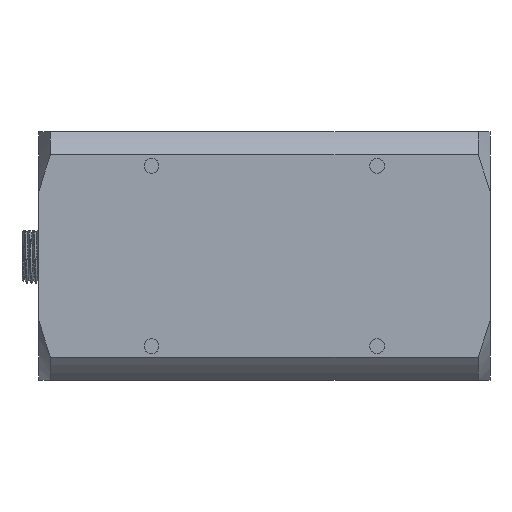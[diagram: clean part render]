
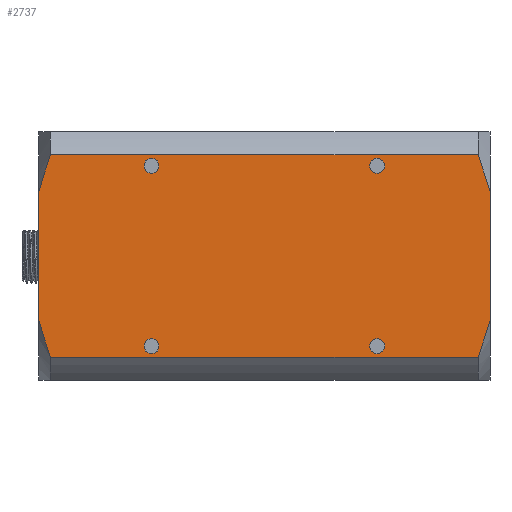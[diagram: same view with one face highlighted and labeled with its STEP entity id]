
A CAD part, front view. The second image highlights one B-rep face of the part: STEP entity #2737.
In plain terms, the highlighted planar face has unit normal (0, -1, 0).
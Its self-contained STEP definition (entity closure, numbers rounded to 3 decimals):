
#767=FACE_BOUND('',#5045,.T.);
#768=FACE_BOUND('',#5046,.T.);
#769=FACE_BOUND('',#5047,.T.);
#770=FACE_BOUND('',#5048,.T.);
#771=FACE_BOUND('',#5049,.T.);
#1096=B_SPLINE_CURVE_WITH_KNOTS('',3,(#28548,#28549,#28550,#28551),
 .UNSPECIFIED.,.F.,.F.,(4,4),(0.,1.),.UNSPECIFIED.);
#1106=B_SPLINE_CURVE_WITH_KNOTS('',3,(#28640,#28641,#28642,#28643),
 .UNSPECIFIED.,.F.,.F.,(4,4),(0.,1.),.UNSPECIFIED.);
#1108=B_SPLINE_CURVE_WITH_KNOTS('',3,(#28666,#28667,#28668,#28669),
 .UNSPECIFIED.,.F.,.F.,(4,4),(0.,1.),.UNSPECIFIED.);
#1111=B_SPLINE_CURVE_WITH_KNOTS('',3,(#28706,#28707,#28708,#28709),
 .UNSPECIFIED.,.F.,.F.,(4,4),(0.,1.),.UNSPECIFIED.);
#2061=PLANE('',#20547);
#2737=ADVANCED_FACE('',(#767,#768,#769,#770,#771),#2061,.T.);
#5045=EDGE_LOOP('',(#10599));
#5046=EDGE_LOOP('',(#10600));
#5047=EDGE_LOOP('',(#10601));
#5048=EDGE_LOOP('',(#10602));
#5049=EDGE_LOOP('',(#10603,#10604,#10605,#10606,#10607,#10608,#10609,#10610));
#6266=LINE('',#28647,#7894);
#6268=LINE('',#28664,#7896);
#6270=LINE('',#28679,#7898);
#6272=LINE('',#28687,#7900);
#7894=VECTOR('',#22516,1.);
#7896=VECTOR('',#22530,1.);
#7898=VECTOR('',#22538,1.);
#7900=VECTOR('',#22548,1.);
#10599=ORIENTED_EDGE('',*,*,#17437,.T.);
#10600=ORIENTED_EDGE('',*,*,#17438,.T.);
#10601=ORIENTED_EDGE('',*,*,#17439,.T.);
#10602=ORIENTED_EDGE('',*,*,#17440,.T.);
#10603=ORIENTED_EDGE('',*,*,#17433,.F.);
#10604=ORIENTED_EDGE('',*,*,#17441,.T.);
#10605=ORIENTED_EDGE('',*,*,#17416,.F.);
#10606=ORIENTED_EDGE('',*,*,#17414,.F.);
#10607=ORIENTED_EDGE('',*,*,#17423,.T.);
#10608=ORIENTED_EDGE('',*,*,#17424,.F.);
#10609=ORIENTED_EDGE('',*,*,#17428,.F.);
#10610=ORIENTED_EDGE('',*,*,#17386,.T.);
#15363=VERTEX_POINT('',#28552);
#15364=VERTEX_POINT('',#28553);
#15387=VERTEX_POINT('',#28639);
#15388=VERTEX_POINT('',#28644);
#15389=VERTEX_POINT('',#28648);
#15393=VERTEX_POINT('',#28663);
#15394=VERTEX_POINT('',#28670);
#15397=VERTEX_POINT('',#28686);
#15399=VERTEX_POINT('',#28699);
#15400=VERTEX_POINT('',#28701);
#15401=VERTEX_POINT('',#28703);
#15402=VERTEX_POINT('',#28705);
#17386=EDGE_CURVE('',#15363,#15364,#1096,.T.);
#17414=EDGE_CURVE('',#15387,#15388,#1106,.T.);
#17416=EDGE_CURVE('',#15388,#15389,#6266,.T.);
#17423=EDGE_CURVE('',#15387,#15393,#6268,.T.);
#17424=EDGE_CURVE('',#15394,#15393,#1108,.T.);
#17428=EDGE_CURVE('',#15363,#15394,#6270,.T.);
#17433=EDGE_CURVE('',#15397,#15364,#6272,.T.);
#17437=EDGE_CURVE('',#15399,#15399,#19830,.T.);
#17438=EDGE_CURVE('',#15400,#15400,#19831,.T.);
#17439=EDGE_CURVE('',#15401,#15401,#19832,.T.);
#17440=EDGE_CURVE('',#15402,#15402,#19833,.T.);
#17441=EDGE_CURVE('',#15397,#15389,#1111,.T.);
#19830=CIRCLE('',#20543,1.65);
#19831=CIRCLE('',#20544,1.65);
#19832=CIRCLE('',#20545,1.65);
#19833=CIRCLE('',#20546,1.65);
#20543=AXIS2_PLACEMENT_3D('',#28698,#22558,#22559);
#20544=AXIS2_PLACEMENT_3D('',#28700,#22560,#22561);
#20545=AXIS2_PLACEMENT_3D('',#28702,#22562,#22563);
#20546=AXIS2_PLACEMENT_3D('',#28704,#22564,#22565);
#20547=AXIS2_PLACEMENT_3D('',#28710,#22566,#22567);
#22516=DIRECTION('',(1.,0.,0.));
#22530=DIRECTION('',(0.,0.,-1.));
#22538=DIRECTION('',(-1.,0.,0.));
#22548=DIRECTION('',(0.,0.,-1.));
#22558=DIRECTION('',(0.,1.,0.));
#22559=DIRECTION('',(0.,0.,1.));
#22560=DIRECTION('',(0.,1.,0.));
#22561=DIRECTION('',(0.,0.,1.));
#22562=DIRECTION('',(0.,1.,0.));
#22563=DIRECTION('',(0.,0.,1.));
#22564=DIRECTION('',(0.,1.,0.));
#22565=DIRECTION('',(0.,0.,1.));
#22566=DIRECTION('',(0.,-1.,0.));
#22567=DIRECTION('',(0.,0.,1.));
#28548=CARTESIAN_POINT('',(92.402,-49.49,-241.95));
#28549=CARTESIAN_POINT('',(93.384,-49.49,-239.26));
#28550=CARTESIAN_POINT('',(94.269,-49.49,-236.551));
#28551=CARTESIAN_POINT('',(95.,-49.49,-233.809));
#28552=CARTESIAN_POINT('',(92.402,-49.49,-241.95));
#28553=CARTESIAN_POINT('',(95.,-49.49,-233.809));
#28639=CARTESIAN_POINT('',(-5.,-49.49,-205.191));
#28640=CARTESIAN_POINT('',(-5.,-49.49,-205.191));
#28641=CARTESIAN_POINT('',(-4.269,-49.49,-202.449));
#28642=CARTESIAN_POINT('',(-3.384,-49.49,-199.74));
#28643=CARTESIAN_POINT('',(-2.402,-49.49,-197.05));
#28644=CARTESIAN_POINT('',(-2.402,-49.49,-197.05));
#28647=CARTESIAN_POINT('',(-5.,-49.49,-197.05));
#28648=CARTESIAN_POINT('',(92.402,-49.49,-197.05));
#28663=CARTESIAN_POINT('',(-5.,-49.49,-233.809));
#28664=CARTESIAN_POINT('',(-5.,-49.49,-244.5));
#28666=CARTESIAN_POINT('',(-2.402,-49.49,-241.95));
#28667=CARTESIAN_POINT('',(-3.384,-49.49,-239.26));
#28668=CARTESIAN_POINT('',(-4.269,-49.49,-236.551));
#28669=CARTESIAN_POINT('',(-5.,-49.49,-233.809));
#28670=CARTESIAN_POINT('',(-2.402,-49.49,-241.95));
#28679=CARTESIAN_POINT('',(-5.,-49.49,-241.95));
#28686=CARTESIAN_POINT('',(95.,-49.49,-205.191));
#28687=CARTESIAN_POINT('',(95.,-49.49,-219.5));
#28698=CARTESIAN_POINT('',(20.,-49.49,-239.5));
#28699=CARTESIAN_POINT('',(20.,-49.49,-237.85));
#28700=CARTESIAN_POINT('',(20.,-49.49,-199.5));
#28701=CARTESIAN_POINT('',(20.,-49.49,-197.85));
#28702=CARTESIAN_POINT('',(70.,-49.49,-199.5));
#28703=CARTESIAN_POINT('',(70.,-49.49,-197.85));
#28704=CARTESIAN_POINT('',(70.,-49.49,-239.5));
#28705=CARTESIAN_POINT('',(70.,-49.49,-237.85));
#28706=CARTESIAN_POINT('',(95.,-49.49,-205.191));
#28707=CARTESIAN_POINT('',(94.269,-49.49,-202.449));
#28708=CARTESIAN_POINT('',(93.384,-49.49,-199.74));
#28709=CARTESIAN_POINT('',(92.402,-49.49,-197.05));
#28710=CARTESIAN_POINT('',(95.,-49.49,-244.5));
